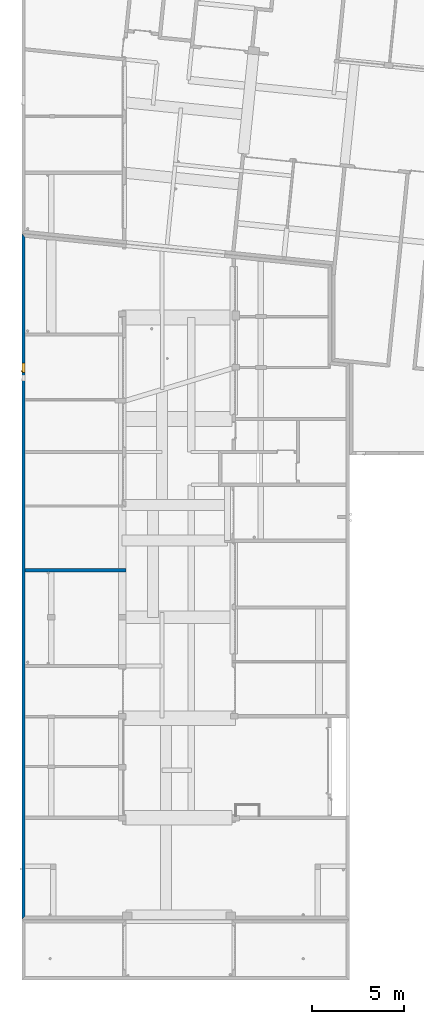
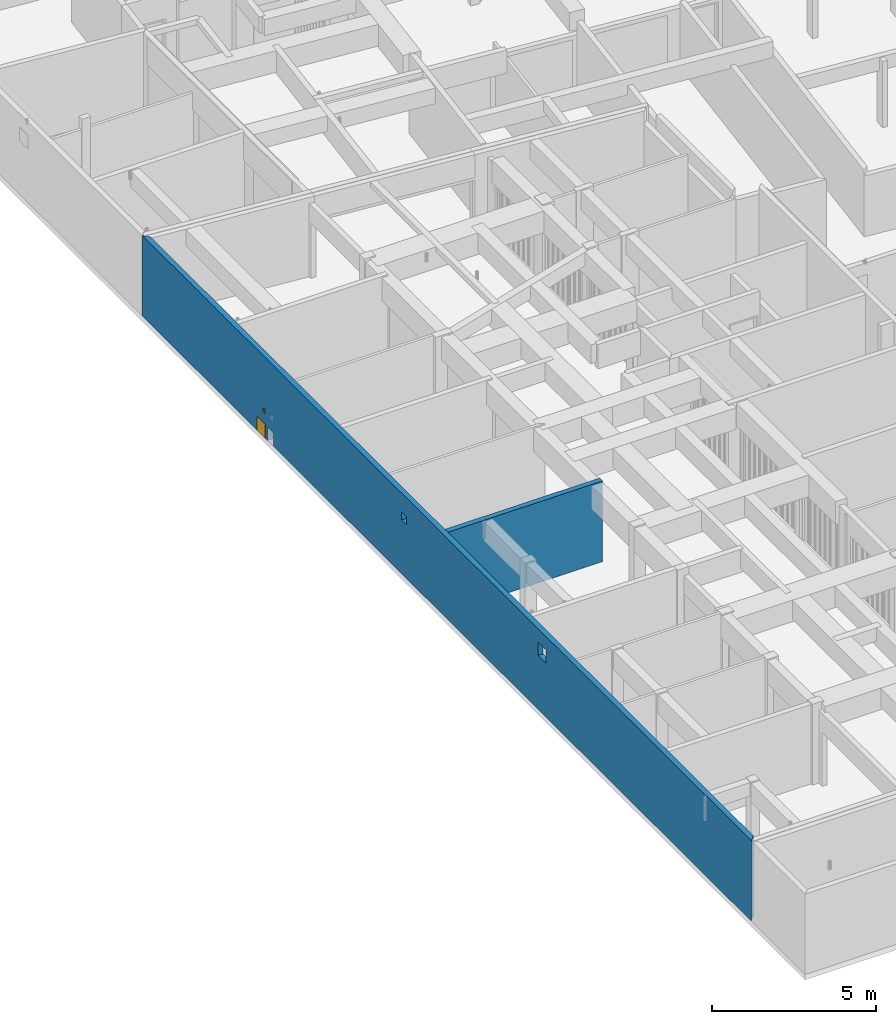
# One storey, part 6 of 41: 2 walls, 1 door, 4 openings.
"""IFC2X3 building model written with IfcOpenShell, lengths in millimetres."""

from ifc_helpers import new_model, entity, si_unit, converted_unit, derived_unit, money_unit, direction, frame, origin_with_axes, origin_2d_with_axis, place, context, subcontext, project, spatial, polyline, rectangle, outline, extrude, faceted_brep, source, transform, mapped, material, layer, layer_set, layer_usage, type_object, element, fill, save


model = new_model("IFC2X3")

# Units and contexts
model_context = context("Model", 3, precision=0.01, world=origin_with_axes(), true_north=direction((0.0, 1.0)))
body_context = subcontext(model_context, "Body", "Model", "MODEL_VIEW")
ifc_project = project(units=[si_unit("LENGTHUNIT", "METRE", prefix="MILLI"), si_unit("AREAUNIT", "SQUARE_METRE"), si_unit("VOLUMEUNIT", "CUBIC_METRE"), converted_unit("PLANEANGLEUNIT", "DEGREE", entity("IfcPlaneAngleMeasure", 0.0174532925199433), si_unit("PLANEANGLEUNIT", "RADIAN"), dimensions=[0, 0, 0, 0, 0, 0, 0]), money_unit("USD"), converted_unit("TIMEUNIT", "Year", entity("IfcTimeMeasure", 31557600.0), si_unit("TIMEUNIT", "SECOND"), dimensions=[0, 0, 1, 0, 0, 0, 0]), si_unit("MASSUNIT", "GRAM", prefix="KILO"), si_unit("THERMODYNAMICTEMPERATUREUNIT", "DEGREE_CELSIUS"), si_unit("LUMINOUSINTENSITYUNIT", "LUMEN"), si_unit("ENERGYUNIT", "JOULE", prefix="MEGA"), derived_unit("THERMALCONDUCTANCEUNIT", [(si_unit("POWERUNIT", "WATT"), 1), (si_unit("LENGTHUNIT", "METRE"), -1), (si_unit("THERMODYNAMICTEMPERATUREUNIT", "KELVIN"), -1)]), derived_unit("SPECIFICHEATCAPACITYUNIT", [(si_unit("ENERGYUNIT", "JOULE"), 1), (si_unit("MASSUNIT", "GRAM", prefix="KILO"), -1), (si_unit("THERMODYNAMICTEMPERATUREUNIT", "KELVIN"), -1)]), derived_unit("MASSDENSITYUNIT", [(si_unit("MASSUNIT", "GRAM", prefix="KILO"), 1), (si_unit("VOLUMEUNIT", "CUBIC_METRE"), -1)])], contexts=[model_context])

# Site, building, storey
site_placement = place(None, origin_with_axes())
site = spatial("IfcSite", under=ifc_project, at=site_placement, Name="Site", CompositionType="ELEMENT")
building_placement = place(site_placement, origin_with_axes())
building = spatial("IfcBuilding", under=site, at=building_placement, Name="Bâtiment", CompositionType="ELEMENT")
storey_placement = place(building_placement, origin_with_axes())
storey = spatial("IfcBuildingStorey", under=building, at=storey_placement, Name="sousol", CompositionType="ELEMENT", Elevation=0.0)

# Wall, openings, door
ifc_material = material(Name="Parpaing 314940890")
ifc_layer = layer(ifc_material, 180.0, ventilated="UNKNOWN")
ifc_layer_set = layer_set([ifc_layer], Name="Beton  18 0170347028")
ifc_layer_usage_1 = layer_usage(ifc_layer_set, "AXIS2", "POSITIVE", 0.0)
wall_type = type_object("IfcWallType", Name="Beton  18 0170347028 180", PredefinedType="NOTDEFINED")
wall_1_placement = place(storey_placement, frame((2216634.23334483, -620890.3900603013, 0.0), z_axis=(0.0, 0.0, 1.0), x_axis=(0.0, -1.0, 0.0)))
wall_1 = element("IfcWallStandardCase", 1, at=wall_1_placement, inside=storey, type_object=wall_type, material=ifc_layer_usage_1, Name="Mur-132", context=body_context, shape_type="SweptSolid", body=[
    extrude(outline(polyline([(-180.9270809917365, 0.0), (36927.93301666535, 0.0), (36747.93301666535, 179.99999999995), (18.29231084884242, 179.99999999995), (-180.9270809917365, 0.0)])), origin_with_axes(), (0.0, 0.0, 1.0), 3000.0),
])
opening_1_placement = place(wall_1_placement, frame((15766.22078603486, 2.273736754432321e-10, 2000.000000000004), z_axis=(0.0, 0.0, 1.0), x_axis=(1.0, 0.0, 0.0)))
element("IfcOpeningElement", 2, at=opening_1_placement, cuts=wall_1, Name="Por-277", context=body_context, shape_type="SweptSolid", body=[
    extrude(rectangle(XDim=300.0000000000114, YDim=299.9999999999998, at=origin_2d_with_axis()), frame((0.0, 0.0, 149.9999999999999), z_axis=(0.0, 1.0, 0.0), x_axis=(1.0, 0.0, 0.0)), (0.0, 0.0, -1.0), 180.0),
    extrude(rectangle(XDim=300.0000000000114, YDim=299.9999999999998, at=origin_2d_with_axis()), frame((0.0, 0.0, 149.9999999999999), z_axis=(0.0, -1.0, 0.0), x_axis=(1.0, 0.0, 0.0)), (0.0, 0.0, -1.0), 180.0),
])
opening_2_placement = place(wall_1_placement, frame((24180.17555855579, 3.410605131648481e-10, 2000.000000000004), z_axis=(0.0, 0.0, 1.0), x_axis=(1.0, 0.0, 0.0)))
element("IfcOpeningElement", 3, at=opening_2_placement, cuts=wall_1, Name="Por-277", context=body_context, shape_type="SweptSolid", body=[
    extrude(rectangle(XDim=500.0, YDim=500.0, at=origin_2d_with_axis()), frame((0.0, -1.13686837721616e-10, 250.0), z_axis=(0.0, 1.0, 0.0), x_axis=(1.0, 0.0, 0.0)), (0.0, 0.0, -1.0), 180.0),
    extrude(rectangle(XDim=500.0, YDim=500.0, at=origin_2d_with_axis()), frame((0.0, -1.13686837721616e-10, 250.0), z_axis=(0.0, -1.0, 0.0), x_axis=(1.0, 0.0, 0.0)), (0.0, 0.0, -1.0), 180.0),
])
opening_3_placement = place(wall_1_placement, frame((7070.907217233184, 2.273736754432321e-10, 0.0), z_axis=(0.0, 0.0, 1.0), x_axis=(1.0, 0.0, 0.0)))
opening_3 = element("IfcOpeningElement", 4, at=opening_3_placement, cuts=wall_1, Name="Por-277", context=body_context, shape_type="SweptSolid", body=[
    extrude(rectangle(XDim=519.999999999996, YDim=509.999998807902, at=origin_2d_with_axis()), frame((0.0, 179.99999999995, 255.000000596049), z_axis=(0.0, -1.0, 0.0), x_axis=(-1.0, 0.0, 0.0)), (0.0, 0.0, 1.0), 360.0),
])
opening_4_placement = place(wall_1_placement, frame((7631.771342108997, 2.273736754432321e-10, 0.0), z_axis=(0.0, 0.0, 1.0), x_axis=(1.0, 0.0, 0.0)))
element("IfcOpeningElement", 5, at=opening_4_placement, cuts=wall_1, Name="Por-277", context=body_context, shape_type="SweptSolid", body=[
    extrude(rectangle(XDim=343.3422810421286, YDim=510.0, at=origin_2d_with_axis()), frame((1.406561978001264e-06, 179.99999999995, 255.0), z_axis=(0.0, -1.0, 0.0), x_axis=(-1.0, 0.0, 0.0)), (0.0, 0.0, 1.0), 360.0),
])
door_style = type_object("IfcDoorStyle", Name="Porte_1v", ConstructionType="NOTDEFINED", OperationType="NOTDEFINED", ParameterTakesPrecedence=False, Sizeable=False)
shared_shape = source(origin_with_axes(), body_context, "Body", "Brep", [
    faceted_brep([(260.0, 0.0, 0.0), (250.0, 0.0, 0.0), (250.0, 0.0, 500.0), (-250.0, 0.0, 500.0), (-250.0, 0.0, 0.0), (-260.0, 0.0, 0.0), (-260.0, 0.0, 510.0), (260.0, 0.0, 510.0), (260.0, -180.0, 0.0), (240.0, -180.0, 0.0), (240.0, -15.0, 0.0), (250.0, -15.0, 0.0), (250.0, -15.0, 500.0), (-250.0, -15.0, 500.0), (-250.0, -15.0, 0.0), (-240.0, -15.0, 0.0), (-240.0, -180.0, 0.0), (-260.0, -180.0, 0.0), (-260.0, -180.0, 510.0), (260.0, -180.0, 510.0), (-240.0, -180.0, 490.0), (240.0, -180.0, 490.0), (240.0, -15.0, 490.0), (-240.0, -15.0, 490.0)], [[[0, 1, 2, 3, 4, 5, 6, 7]], [[0, 8, 9, 10, 11, 1]], [[1, 11, 12, 2]], [[2, 12, 13, 3]], [[3, 13, 14, 4]], [[5, 4, 14, 15, 16, 17]], [[18, 6, 5, 17]], [[19, 7, 6, 18]], [[8, 0, 7, 19]], [[9, 8, 19, 18, 17, 16, 20, 21]], [[10, 9, 21, 22]], [[11, 10, 22, 23, 15, 14, 13, 12]], [[23, 20, 16, 15]], [[22, 21, 20, 23]]]),
    faceted_brep([(-185.0, -15.0, 900.0), (-225.0, -15.0, 900.0), (-225.0, -15.0, 1100.0), (-185.0, -15.0, 1100.0), (-185.0, -25.0, 900.0), (-225.0, -25.0, 900.0), (-225.0, -25.0, 1100.0), (-185.0, -25.0, 1100.0)], [[[0, 1, 2, 3]], [[1, 0, 4, 5]], [[2, 1, 5, 6]], [[3, 2, 6, 7]], [[0, 3, 7, 4]], [[5, 4, 7, 6]]]),
    faceted_brep([(-115.0, -25.0, 1000.0), (-215.0, -25.0, 1000.0), (-215.0, -25.0, 1020.0), (-115.0, -25.0, 1020.0), (-115.0, -45.0, 1000.0), (-215.0, -45.0, 1000.0), (-215.0, -45.0, 1020.0), (-115.0, -45.0, 1020.0)], [[[0, 1, 2, 3]], [[1, 0, 4, 5]], [[2, 1, 5, 6]], [[3, 2, 6, 7]], [[0, 3, 7, 4]], [[5, 4, 7, 6]]]),
    faceted_brep([(-185.0, 15.0, 900.0), (-225.0, 15.0, 900.0), (-225.0, 15.0, 1100.0), (-185.0, 15.0, 1100.0), (-185.0, 5.000000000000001, 900.0), (-225.0, 5.000000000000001, 900.0), (-225.0, 5.000000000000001, 1100.0), (-185.0, 5.000000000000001, 1100.0)], [[[0, 1, 2, 3]], [[1, 0, 4, 5]], [[2, 1, 5, 6]], [[3, 2, 6, 7]], [[0, 3, 7, 4]], [[5, 4, 7, 6]]]),
    faceted_brep([(-115.0, 35.0, 1000.0), (-215.0, 35.0, 1000.0), (-215.0, 35.0, 1020.0), (-115.0, 35.0, 1020.0), (-115.0, 15.0, 1000.0), (-215.0, 15.0, 1000.0), (-215.0, 15.0, 1020.0), (-115.0, 15.0, 1020.0)], [[[0, 1, 2, 3]], [[1, 0, 4, 5]], [[2, 1, 5, 6]], [[3, 2, 6, 7]], [[0, 3, 7, 4]], [[5, 4, 7, 6]]]),
    faceted_brep([(-250.0, 5.000000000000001, 0.0), (250.0, 5.000000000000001, 0.0), (250.0, -15.0, 0.0), (-250.0, -15.0, 0.0), (-250.0, 5.000000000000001, 500.0), (250.0, 5.000000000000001, 500.0), (250.0, -15.0, 500.0), (-250.0, -15.0, 500.0)], [[[0, 1, 2, 3]], [[0, 4, 5, 1]], [[1, 5, 6, 2]], [[3, 2, 6, 7]], [[4, 0, 3, 7]], [[5, 4, 7, 6]]]),
])
door_placement = place(opening_3_placement, frame((250.0, 2.273736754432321e-10, 0.0), z_axis=(0.0, 0.0, 1.0), x_axis=(-1.0, 0.0, 0.0)))
door = element("IfcDoor", 6, at=door_placement, inside=storey, type_object=door_style, Name="Por-277", OverallHeight=500.0, OverallWidth=500.0, context=body_context, shape_type="MappedRepresentation", body=[
    mapped(shared_shape, transform((250.0, 0.0, 0.0))),
])
fill(opening_3, door)

# Wall
ifc_layer_usage_2 = layer_usage(ifc_layer_set, "AXIS2", "NEGATIVE", 0.0)
wall_2_placement = place(storey_placement, frame((2222264.233344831, -639016.8076992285, 0.0), z_axis=(0.0, 0.0, 1.0), x_axis=(-1.0, 0.0, 0.0)))
element("IfcWallStandardCase", 7, at=wall_2_placement, inside=storey, type_object=wall_type, material=ifc_layer_usage_2, Name="Mur-133", context=body_context, shape_type="SweptSolid", body=[
    extrude(outline(polyline([(0.0, -180.0000000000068), (5450.000000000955, -180.0000000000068), (5450.000000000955, 0.0), (0.0, 0.0), (0.0, -180.0000000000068)])), origin_with_axes(), (0.0, 0.0, 1.0), 3000.0),
])

save(model, "model.ifc")
